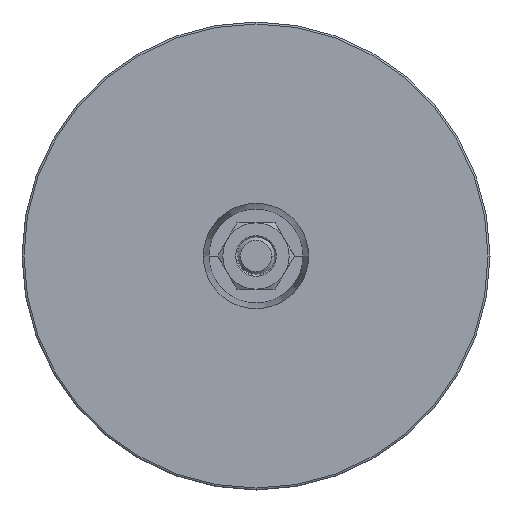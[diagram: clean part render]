
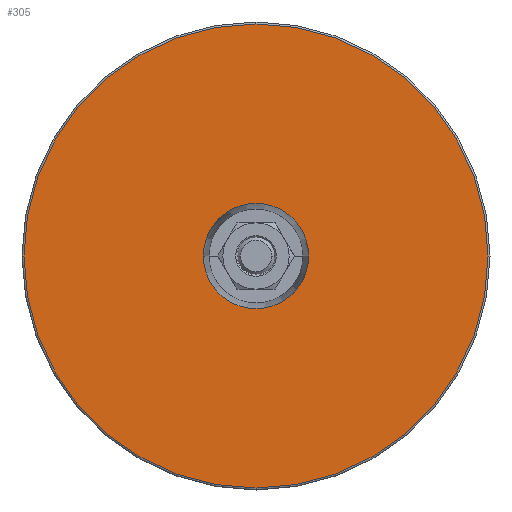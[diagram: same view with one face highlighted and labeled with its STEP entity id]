
A CAD part, front view. The second image highlights one B-rep face of the part: STEP entity #305.
In plain terms, the highlighted planar face has unit normal (0, -1, 0).
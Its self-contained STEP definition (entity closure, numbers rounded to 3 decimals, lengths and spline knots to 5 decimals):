
#305=ADVANCED_FACE('441:51',(#508,#509),#510,.T.);
#508=FACE_OUTER_BOUND('',#2026,.T.);
#509=FACE_BOUND('',#2027,.T.);
#510=PLANE('',#2028);
#2026=EDGE_LOOP('',(#2659,#2660,#2661));
#2027=EDGE_LOOP('',(#2662,#2663));
#2028=AXIS2_PLACEMENT_3D('',#2664,#2665,#2666);
#2659=ORIENTED_EDGE('',*,*,#3077,.T.);
#2660=ORIENTED_EDGE('',*,*,#3059,.T.);
#2661=ORIENTED_EDGE('',*,*,#3078,.T.);
#2662=ORIENTED_EDGE('',*,*,#3079,.F.);
#2663=ORIENTED_EDGE('',*,*,#3051,.F.);
#2664=CARTESIAN_POINT('',(0.0595,0.,0.0));
#2665=DIRECTION('',(0.0,-1.0,0.0));
#2666=DIRECTION('',(0.0,0.0,-1.0));
#3051=EDGE_CURVE('441:293',#3406,#3408,#3409,.T.);
#3059=EDGE_CURVE('441:270',#3424,#3421,#3425,.T.);
#3077=EDGE_CURVE('441:270',#3451,#3424,#3452,.T.);
#3078=EDGE_CURVE('441:270',#3421,#3451,#3453,.T.);
#3079=EDGE_CURVE('441:293',#3408,#3406,#3454,.T.);
#3406=VERTEX_POINT('',#15338);
#3408=VERTEX_POINT('',#15341);
#3409=CIRCLE('',#15342,0.0135);
#3421=VERTEX_POINT('',#15357);
#3424=VERTEX_POINT('',#15360);
#3425=CIRCLE('',#15361,0.0595);
#3451=VERTEX_POINT('',#15389);
#3452=CIRCLE('',#15390,0.0595);
#3453=CIRCLE('',#15391,0.0595);
#3454=CIRCLE('',#15392,0.0135);
#15338=CARTESIAN_POINT('',(0.0135,0.0,0.));
#15341=CARTESIAN_POINT('',(-0.0135,0.0,0.));
#15342=AXIS2_PLACEMENT_3D('',#15900,#15901,#15902);
#15357=CARTESIAN_POINT('',(0.,0.,0.0595));
#15360=CARTESIAN_POINT('',(0.,0.,-0.0595));
#15361=AXIS2_PLACEMENT_3D('',#15918,#15919,#15920);
#15389=CARTESIAN_POINT('',(-0.0595,0.,0.0));
#15390=AXIS2_PLACEMENT_3D('',#15968,#15969,#15970);
#15391=AXIS2_PLACEMENT_3D('',#15971,#15972,#15973);
#15392=AXIS2_PLACEMENT_3D('',#15974,#15975,#15976);
#15900=CARTESIAN_POINT('',(0.0,0.0,0.0));
#15901=DIRECTION('',(0.0,-1.0,0.0));
#15902=DIRECTION('',(1.0,0.0,0.0));
#15918=CARTESIAN_POINT('',(0.0,0.,0.0));
#15919=DIRECTION('',(0.0,-1.0,0.0));
#15920=DIRECTION('',(1.0,0.0,0.0));
#15968=CARTESIAN_POINT('',(0.0,0.,0.0));
#15969=DIRECTION('',(0.0,-1.0,0.0));
#15970=DIRECTION('',(1.0,0.0,0.0));
#15971=CARTESIAN_POINT('',(0.0,0.,0.0));
#15972=DIRECTION('',(0.0,-1.0,0.0));
#15973=DIRECTION('',(1.0,0.0,0.0));
#15974=CARTESIAN_POINT('',(0.0,0.0,0.0));
#15975=DIRECTION('',(0.0,-1.0,0.0));
#15976=DIRECTION('',(1.0,0.0,0.0));
